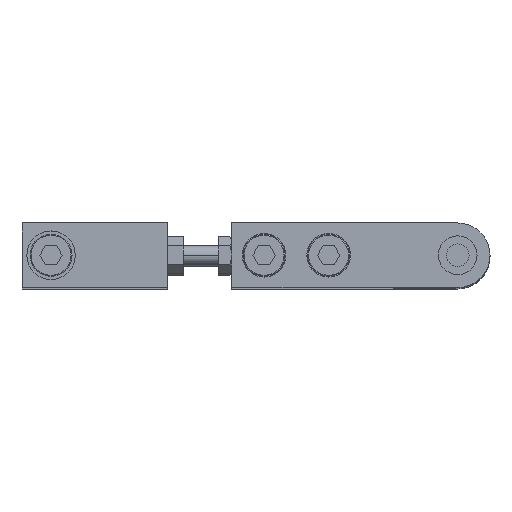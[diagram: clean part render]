
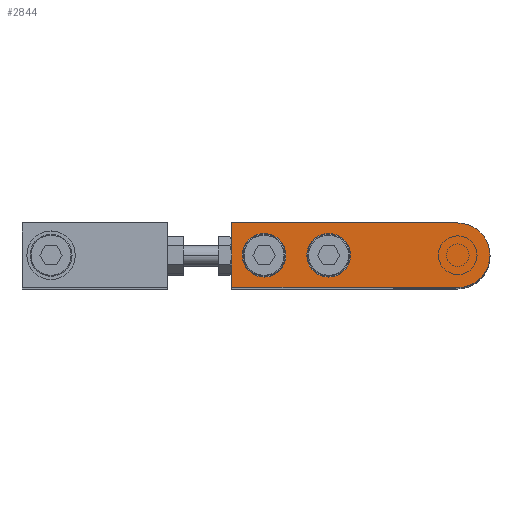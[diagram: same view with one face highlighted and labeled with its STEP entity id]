
A CAD part, top view. The second image highlights one B-rep face of the part: STEP entity #2844.
In plain terms, the highlighted planar face has unit normal (0, 0, 1) as drawn and (0, 0, -1) by its records, which use the part's own axes.
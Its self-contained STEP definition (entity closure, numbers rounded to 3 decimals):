
#63 = DIRECTION ( 'NONE',  ( 0., 0., -1. ) ) ;
#133 = DIRECTION ( 'NONE',  ( 0., 0., 1. ) ) ;
#156 = CARTESIAN_POINT ( 'NONE',  ( 0., -10., -5. ) ) ;
#338 = VERTEX_POINT ( 'NONE', #1990 ) ;
#370 = AXIS2_PLACEMENT_3D ( 'NONE', #2533, #1298, #3715 ) ;
#406 = DIRECTION ( 'NONE',  ( 1., 0., 0. ) ) ;
#452 = CARTESIAN_POINT ( 'NONE',  ( 70., 10., -5. ) ) ;
#474 = CIRCLE ( 'NONE', #370, 10. ) ;
#491 = CARTESIAN_POINT ( 'NONE',  ( 0., 0., -5. ) ) ;
#518 = ORIENTED_EDGE ( 'NONE', *, *, #2027, .F. ) ;
#590 = VERTEX_POINT ( 'NONE', #7117 ) ;
#612 = CARTESIAN_POINT ( 'NONE',  ( 0., -10., -5. ) ) ;
#646 = AXIS2_PLACEMENT_3D ( 'NONE', #5290, #1060, #5799 ) ;
#741 = ORIENTED_EDGE ( 'NONE', *, *, #2373, .F. ) ;
#959 = LINE ( 'NONE', #5587, #7091 ) ;
#1053 = ORIENTED_EDGE ( 'NONE', *, *, #6625, .F. ) ;
#1060 = DIRECTION ( 'NONE',  ( 0., 0., -1. ) ) ;
#1112 = PLANE ( 'NONE',  #5658 ) ;
#1137 = DIRECTION ( 'NONE',  ( -1., 0., 0. ) ) ;
#1165 = ORIENTED_EDGE ( 'NONE', *, *, #4152, .F. ) ;
#1221 = CARTESIAN_POINT ( 'NONE',  ( 70., 10., -5. ) ) ;
#1298 = DIRECTION ( 'NONE',  ( 0., 0., 1. ) ) ;
#1434 = AXIS2_PLACEMENT_3D ( 'NONE', #3347, #4448, #6743 ) ;
#1533 = VECTOR ( 'NONE', #1798, 1000. ) ;
#1563 = VERTEX_POINT ( 'NONE', #6219 ) ;
#1711 = FACE_OUTER_BOUND ( 'NONE', #3385, .T. ) ;
#1785 = EDGE_CURVE ( 'NONE', #2006, #5847, #6858, .T. ) ;
#1798 = DIRECTION ( 'NONE',  ( 1., 0., 0. ) ) ;
#1919 = CARTESIAN_POINT ( 'NONE',  ( -10., 0., -5. ) ) ;
#1990 = CARTESIAN_POINT ( 'NONE',  ( 46.75, 0., -5. ) ) ;
#2006 = VERTEX_POINT ( 'NONE', #2311 ) ;
#2027 = EDGE_CURVE ( 'NONE', #5847, #2006, #7495, .T. ) ;
#2150 = EDGE_CURVE ( 'NONE', #590, #338, #6135, .T. ) ;
#2311 = CARTESIAN_POINT ( 'NONE',  ( 53.25, 0., -5. ) ) ;
#2343 = AXIS2_PLACEMENT_3D ( 'NONE', #2503, #133, #3647 ) ;
#2373 = EDGE_CURVE ( 'NONE', #338, #590, #4627, .T. ) ;
#2398 = ORIENTED_EDGE ( 'NONE', *, *, #3120, .F. ) ;
#2445 = CARTESIAN_POINT ( 'NONE',  ( 60., 0., -5. ) ) ;
#2503 = CARTESIAN_POINT ( 'NONE',  ( 0., 0., -5. ) ) ;
#2533 = CARTESIAN_POINT ( 'NONE',  ( 0., 0., -5. ) ) ;
#2844 = ADVANCED_FACE ( 'NONE', ( #7298, #7210, #1711 ), #1112, .F. ) ;
#3052 = DIRECTION ( 'NONE',  ( 0., 0., -1. ) ) ;
#3120 = EDGE_CURVE ( 'NONE', #5833, #5720, #3720, .T. ) ;
#3278 = ORIENTED_EDGE ( 'NONE', *, *, #1785, .F. ) ;
#3347 = CARTESIAN_POINT ( 'NONE',  ( 40., 0., -5. ) ) ;
#3385 = EDGE_LOOP ( 'NONE', ( #1053, #5426, #1165, #4320, #2398 ) ) ;
#3647 = DIRECTION ( 'NONE',  ( 1., 0., 0. ) ) ;
#3653 = CARTESIAN_POINT ( 'NONE',  ( 40., 0., -5. ) ) ;
#3715 = DIRECTION ( 'NONE',  ( 1., 0., 0. ) ) ;
#3720 = CIRCLE ( 'NONE', #2343, 10. ) ;
#3854 = ORIENTED_EDGE ( 'NONE', *, *, #2150, .F. ) ;
#3979 = CARTESIAN_POINT ( 'NONE',  ( 0., 10., -5. ) ) ;
#4152 = EDGE_CURVE ( 'NONE', #1563, #5634, #4762, .T. ) ;
#4266 = CARTESIAN_POINT ( 'NONE',  ( 66.75, 0., -5. ) ) ;
#4320 = ORIENTED_EDGE ( 'NONE', *, *, #5935, .F. ) ;
#4448 = DIRECTION ( 'NONE',  ( 0., 0., -1. ) ) ;
#4617 = DIRECTION ( 'NONE',  ( 0., 0., 1. ) ) ;
#4627 = CIRCLE ( 'NONE', #1434, 6.75 ) ;
#4707 = AXIS2_PLACEMENT_3D ( 'NONE', #3653, #63, #1137 ) ;
#4762 = LINE ( 'NONE', #1221, #7438 ) ;
#4831 = AXIS2_PLACEMENT_3D ( 'NONE', #2445, #3052, #7171 ) ;
#4991 = DIRECTION ( 'NONE',  ( -1., 0., 0. ) ) ;
#5290 = CARTESIAN_POINT ( 'NONE',  ( 60., 0., -5. ) ) ;
#5426 = ORIENTED_EDGE ( 'NONE', *, *, #7286, .F. ) ;
#5587 = CARTESIAN_POINT ( 'NONE',  ( 0., 10., -5. ) ) ;
#5634 = VERTEX_POINT ( 'NONE', #452 ) ;
#5658 = AXIS2_PLACEMENT_3D ( 'NONE', #491, #4617, #406 ) ;
#5694 = LINE ( 'NONE', #612, #1533 ) ;
#5720 = VERTEX_POINT ( 'NONE', #156 ) ;
#5799 = DIRECTION ( 'NONE',  ( -1., 0., 0. ) ) ;
#5833 = VERTEX_POINT ( 'NONE', #1919 ) ;
#5847 = VERTEX_POINT ( 'NONE', #4266 ) ;
#5881 = DIRECTION ( 'NONE',  ( 0., 1., 0. ) ) ;
#5935 = EDGE_CURVE ( 'NONE', #5720, #1563, #5694, .T. ) ;
#5943 = EDGE_LOOP ( 'NONE', ( #3854, #741 ) ) ;
#6135 = CIRCLE ( 'NONE', #4707, 6.75 ) ;
#6219 = CARTESIAN_POINT ( 'NONE',  ( 70., -10., -5. ) ) ;
#6625 = EDGE_CURVE ( 'NONE', #7369, #5833, #474, .T. ) ;
#6743 = DIRECTION ( 'NONE',  ( -1., 0., 0. ) ) ;
#6858 = CIRCLE ( 'NONE', #4831, 6.75 ) ;
#7091 = VECTOR ( 'NONE', #4991, 1000. ) ;
#7117 = CARTESIAN_POINT ( 'NONE',  ( 33.25, 0., -5. ) ) ;
#7171 = DIRECTION ( 'NONE',  ( -1., 0., 0. ) ) ;
#7210 = FACE_BOUND ( 'NONE', #5943, .T. ) ;
#7286 = EDGE_CURVE ( 'NONE', #5634, #7369, #959, .T. ) ;
#7298 = FACE_BOUND ( 'NONE', #7587, .T. ) ;
#7369 = VERTEX_POINT ( 'NONE', #3979 ) ;
#7438 = VECTOR ( 'NONE', #5881, 1000. ) ;
#7495 = CIRCLE ( 'NONE', #646, 6.75 ) ;
#7587 = EDGE_LOOP ( 'NONE', ( #3278, #518 ) ) ;
